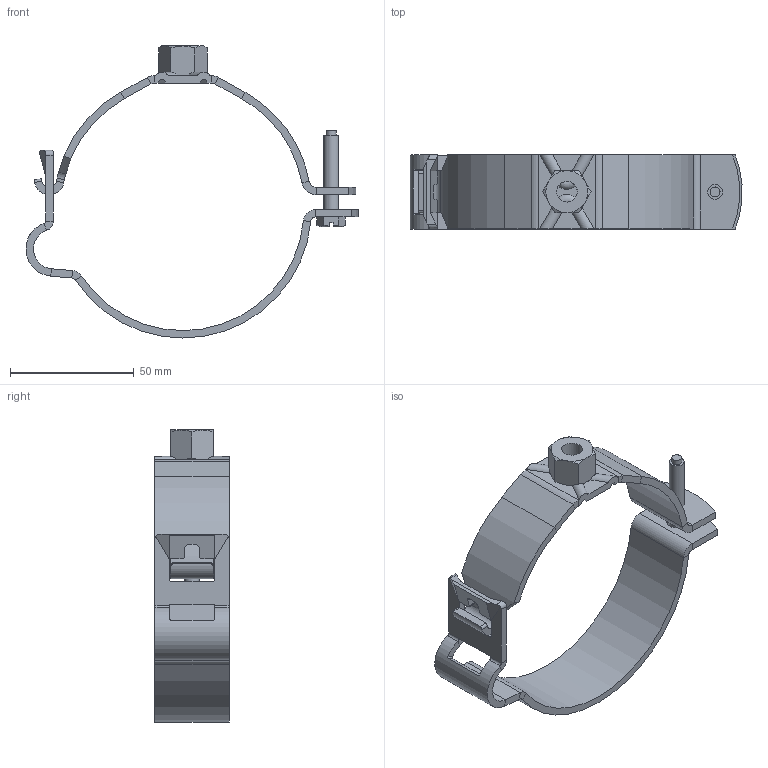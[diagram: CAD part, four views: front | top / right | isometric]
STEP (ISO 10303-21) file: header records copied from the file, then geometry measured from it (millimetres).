
FILE_DESCRIPTION(/* description */ (''),/* implementation_level */ '2;1');
FILE_NAME(/* name */ 'C:\Planerdaten\Export PLA\366.843.00.2\stp\366843.stp',/* time_stamp */ '2020-02-28T04:57:54-08:00',/* author */ ('JANAN'),/* organization */ (''),/* preprocessor_version */ 'ST-DEVELOPER v16.13',/* originating_system */ 'Autodesk Inventor 2018',/* authorisation */ '');
FILE_SCHEMA (('AUTOMOTIVE_DESIGN { 1 0 10303 214 3 1 1 }'));
Length unit declared in the file: millimetre
Products named in the file (4): Rohrschelle d90/98 M10 verstellbar; 38098960_CPP_000_01___Rohrschelle UnT St d90 verz; 38100588_CPP_000_00___Rohrschelle ObT St d90 M10 verz; 30054957_CPP_000_01___Sechskantschraube M6x35-4.8 verzinkt
Assembly tree (3 placements, depth 2):
  Rohrschelle d90/98 M10 verstellbar
    38098960_CPP_000_01___Rohrschelle UnT St d90 verz
    38100588_CPP_000_00___Rohrschelle ObT St d90 M10 verz
    30054957_CPP_000_01___Sechskantschraube M6x35-4.8 verzinkt
Bounding box: 134.37 x 30 x 118.2 mm (x, y, z)
Volume: 36638.1 mm3; surface area: 27322.5 mm2
Topology: 3 solids, 3 shells, 218 faces, 539 edges, 326 vertices
Faces by surface type: plane 136, cylinder 50, cone 22, bspline 8, torus 2
Full cylindrical faces by diameter (mm): 4 x1, 4.917 x1, 6 x1, 8.376 x1
Entity records: 6867 total; most frequent: CARTESIAN_POINT 1653, ORIENTED_EDGE 1068, DIRECTION 1063, EDGE_CURVE 534, AXIS2_PLACEMENT_3D 370, VERTEX_POINT 325, LINE 323, VECTOR 323
